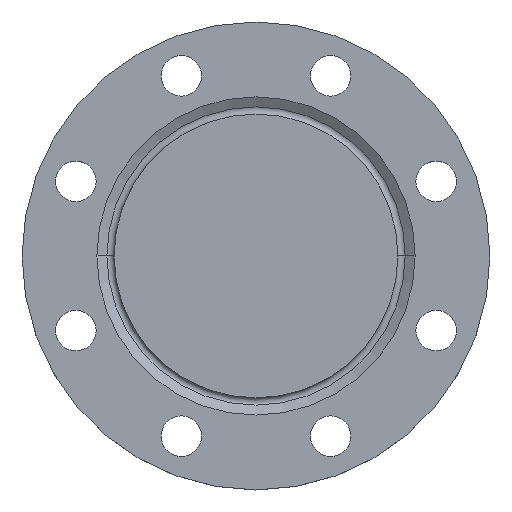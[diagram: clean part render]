
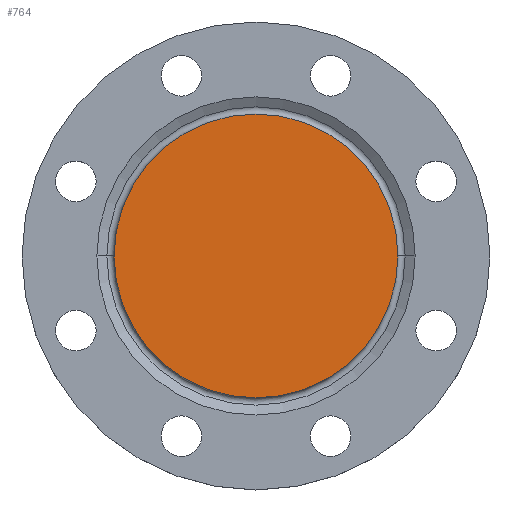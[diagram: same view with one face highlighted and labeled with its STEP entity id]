
A CAD part, top view. The second image highlights one B-rep face of the part: STEP entity #764.
In plain terms, the highlighted planar face has unit normal (0, 0, 1).
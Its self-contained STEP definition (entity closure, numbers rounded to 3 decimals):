
#45 = VERTEX_POINT ( 'NONE', #839 ) ;
#46 = DIRECTION ( 'NONE',  ( 0., 0., 1. ) ) ;
#69 = AXIS2_PLACEMENT_3D ( 'NONE', #553, #464, #785 ) ;
#87 = AXIS2_PLACEMENT_3D ( 'NONE', #676, #1024, #228 ) ;
#118 = EDGE_CURVE ( 'NONE', #521, #45, #351, .T. ) ;
#125 = FACE_OUTER_BOUND ( 'NONE', #316, .T. ) ;
#228 = DIRECTION ( 'NONE',  ( -1., 0., 0. ) ) ;
#316 = EDGE_LOOP ( 'NONE', ( #697, #825 ) ) ;
#351 = CIRCLE ( 'NONE', #69, 91. ) ;
#397 = DIRECTION ( 'NONE',  ( 1., 0., 0. ) ) ;
#464 = DIRECTION ( 'NONE',  ( 0., 0., -1. ) ) ;
#487 = PLANE ( 'NONE',  #1050 ) ;
#521 = VERTEX_POINT ( 'NONE', #530 ) ;
#530 = CARTESIAN_POINT ( 'NONE',  ( 91., 0., 0. ) ) ;
#553 = CARTESIAN_POINT ( 'NONE',  ( 0., 0., 0. ) ) ;
#676 = CARTESIAN_POINT ( 'NONE',  ( 0., 0., 0. ) ) ;
#697 = ORIENTED_EDGE ( 'NONE', *, *, #822, .F. ) ;
#764 = ADVANCED_FACE ( 'NONE', ( #125 ), #487, .T. ) ;
#785 = DIRECTION ( 'NONE',  ( -1., 0., 0. ) ) ;
#822 = EDGE_CURVE ( 'NONE', #45, #521, #981, .T. ) ;
#825 = ORIENTED_EDGE ( 'NONE', *, *, #118, .F. ) ;
#839 = CARTESIAN_POINT ( 'NONE',  ( -91., 0., 0. ) ) ;
#843 = CARTESIAN_POINT ( 'NONE',  ( 0., 0., 0. ) ) ;
#981 = CIRCLE ( 'NONE', #87, 91. ) ;
#1024 = DIRECTION ( 'NONE',  ( 0., 0., -1. ) ) ;
#1050 = AXIS2_PLACEMENT_3D ( 'NONE', #843, #46, #397 ) ;
